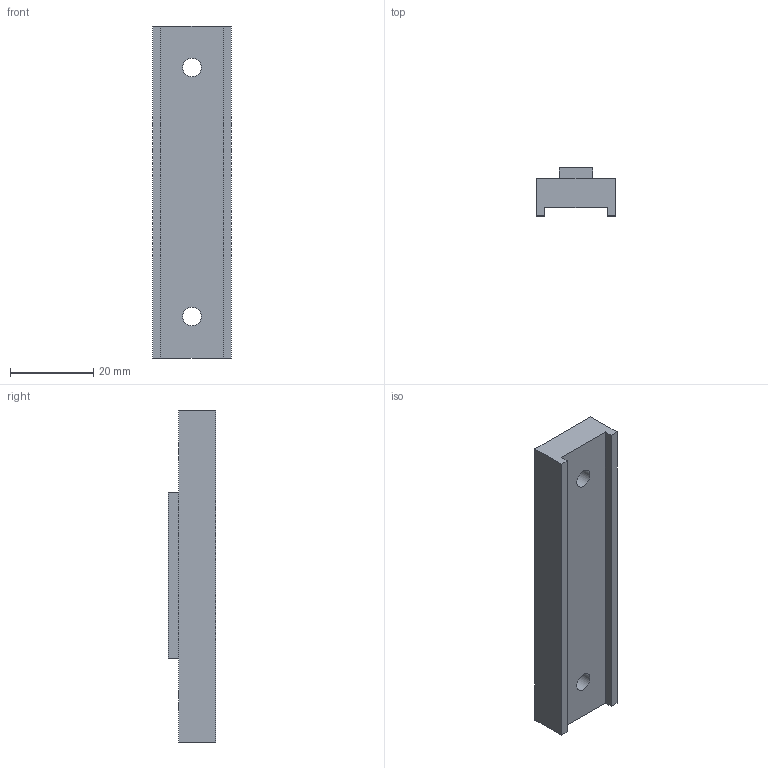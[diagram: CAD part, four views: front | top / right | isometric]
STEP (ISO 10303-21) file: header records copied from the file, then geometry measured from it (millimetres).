
FILE_DESCRIPTION(('STEP AP203'), '1');
FILE_NAME('ÒÏÏÔ1801.01.07.00.006 - Êðåïëåíèå íàïðàâëÿþùåé', '', ('UNSPECIFIED'), ('UNSPECIFIED'), 'C3D Converter', 'C3D Toolkit', '');
FILE_SCHEMA(('CONFIG_CONTROL_DESIGN'));
Length unit declared in the file: millimetre
Products named in the file (1): ТППФ1801.01.07.00.006
Bounding box: 19 x 11.5 x 80 mm (x, y, z)
Volume: 11857.3 mm3; surface area: 5456.3 mm2
Topology: 1 solids, 1 shells, 17 faces, 42 edges, 28 vertices
Faces by surface type: plane 15, cylinder 2
Full cylindrical faces by diameter (mm): 4.5 x2
Entity records: 669 total; most frequent: CARTESIAN_POINT 86, DIRECTION 80, ORIENTED_EDGE 80, EDGE_CURVE 40, LINE 36, VECTOR 36, VERTEX_POINT 28, EDGE_LOOP 24
